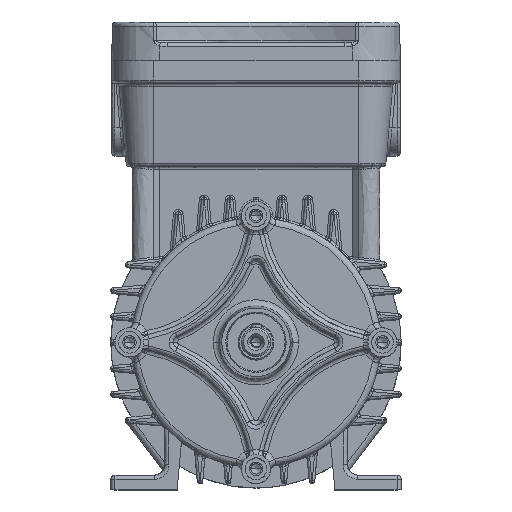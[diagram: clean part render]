
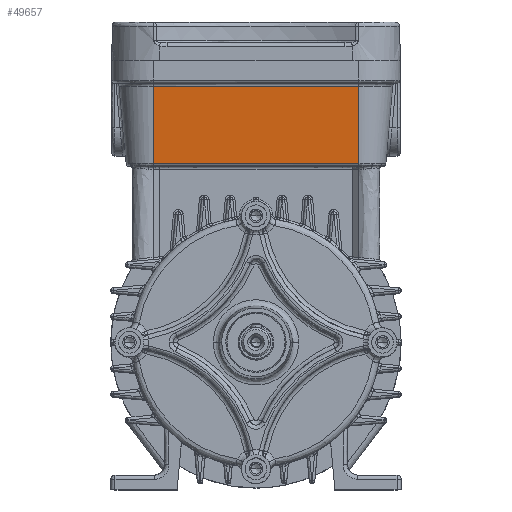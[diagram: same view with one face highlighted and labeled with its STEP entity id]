
A CAD part, top view. The second image highlights one B-rep face of the part: STEP entity #49657.
In plain terms, the highlighted free-form (B-spline) face has degree [1, 1] with [2, 2] control points.
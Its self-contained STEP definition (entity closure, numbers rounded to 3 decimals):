
#294 = EDGE_CURVE ( 'NONE', #75053, #77241, #71749, .T. ) ;
#4923 = EDGE_CURVE ( 'NONE', #75053, #75283, #36708, .T. ) ;
#6661 = EDGE_LOOP ( 'NONE', ( #26251, #47194, #32468, #35210 ) ) ;
#7146 = CARTESIAN_POINT ( 'NONE',  ( 49.5, 123.631, 130.88 ) ) ;
#15348 = CARTESIAN_POINT ( 'NONE',  ( 49.5, 86.369, 127.62 ) ) ;
#15642 = CARTESIAN_POINT ( 'NONE',  ( -49.5, 86.369, 127.62 ) ) ;
#17905 = CARTESIAN_POINT ( 'NONE',  ( -49.5, 123.631, 130.88 ) ) ;
#19336 = B_SPLINE_SURFACE_WITH_KNOTS ( 'NONE', 1, 1, ( 
 ( #15348, #15642 ),
 ( #86764, #29071 ) ),
 .UNSPECIFIED., .F., .F., .F.,
 ( 2, 2 ),
 ( 2, 2 ),
 ( 0., 1. ),
 ( 0., 1. ),
 .UNSPECIFIED. ) ;
#26251 = ORIENTED_EDGE ( 'NONE', *, *, #35944, .T. ) ;
#29071 = CARTESIAN_POINT ( 'NONE',  ( -49.5, 123.631, 130.88 ) ) ;
#32329 = FACE_OUTER_BOUND ( 'NONE', #6661, .T. ) ;
#32468 = ORIENTED_EDGE ( 'NONE', *, *, #294, .T. ) ;
#35210 = ORIENTED_EDGE ( 'NONE', *, *, #81650, .T. ) ;
#35483 = CARTESIAN_POINT ( 'NONE',  ( -49.5, 123.631, 130.88 ) ) ;
#35944 = EDGE_CURVE ( 'NONE', #90729, #75283, #44494, .T. ) ;
#36708 = B_SPLINE_CURVE_WITH_KNOTS ( 'NONE', 1,
 ( #35483, #7146 ),
 .UNSPECIFIED., .F., .F.,
 ( 2, 2 ),
 ( -1., 0. ),
 .UNSPECIFIED. ) ;
#42196 = CARTESIAN_POINT ( 'NONE',  ( -49.5, 86.369, 127.62 ) ) ;
#44494 = B_SPLINE_CURVE_WITH_KNOTS ( 'NONE', 1,
 ( #51426, #87327 ),
 .UNSPECIFIED., .F., .F.,
 ( 2, 2 ),
 ( 0., 1. ),
 .UNSPECIFIED. ) ;
#47194 = ORIENTED_EDGE ( 'NONE', *, *, #4923, .F. ) ;
#47260 = CARTESIAN_POINT ( 'NONE',  ( -49.5, 86.369, 127.62 ) ) ;
#48363 = CARTESIAN_POINT ( 'NONE',  ( -49.5, 86.369, 127.62 ) ) ;
#49392 = CARTESIAN_POINT ( 'NONE',  ( 49.5, 86.369, 127.62 ) ) ;
#49657 = ADVANCED_FACE ( 'NONE', ( #32329 ), #19336, .T. ) ;
#51039 = CARTESIAN_POINT ( 'NONE',  ( 49.5, 86.369, 127.62 ) ) ;
#51426 = CARTESIAN_POINT ( 'NONE',  ( 49.5, 86.369, 127.62 ) ) ;
#54265 = CARTESIAN_POINT ( 'NONE',  ( -49.5, 123.631, 130.88 ) ) ;
#65123 = CARTESIAN_POINT ( 'NONE',  ( 49.5, 123.631, 130.88 ) ) ;
#71749 = B_SPLINE_CURVE_WITH_KNOTS ( 'NONE', 1,
 ( #17905, #47260 ),
 .UNSPECIFIED., .F., .F.,
 ( 2, 2 ),
 ( 0., 1. ),
 .UNSPECIFIED. ) ;
#75053 = VERTEX_POINT ( 'NONE', #54265 ) ;
#75283 = VERTEX_POINT ( 'NONE', #65123 ) ;
#77241 = VERTEX_POINT ( 'NONE', #48363 ) ;
#81650 = EDGE_CURVE ( 'NONE', #77241, #90729, #82144, .T. ) ;
#82144 = B_SPLINE_CURVE_WITH_KNOTS ( 'NONE', 1,
 ( #42196, #49392 ),
 .UNSPECIFIED., .F., .F.,
 ( 2, 2 ),
 ( 0., 1. ),
 .UNSPECIFIED. ) ;
#86764 = CARTESIAN_POINT ( 'NONE',  ( 49.5, 123.631, 130.88 ) ) ;
#87327 = CARTESIAN_POINT ( 'NONE',  ( 49.5, 123.631, 130.88 ) ) ;
#90729 = VERTEX_POINT ( 'NONE', #51039 ) ;
